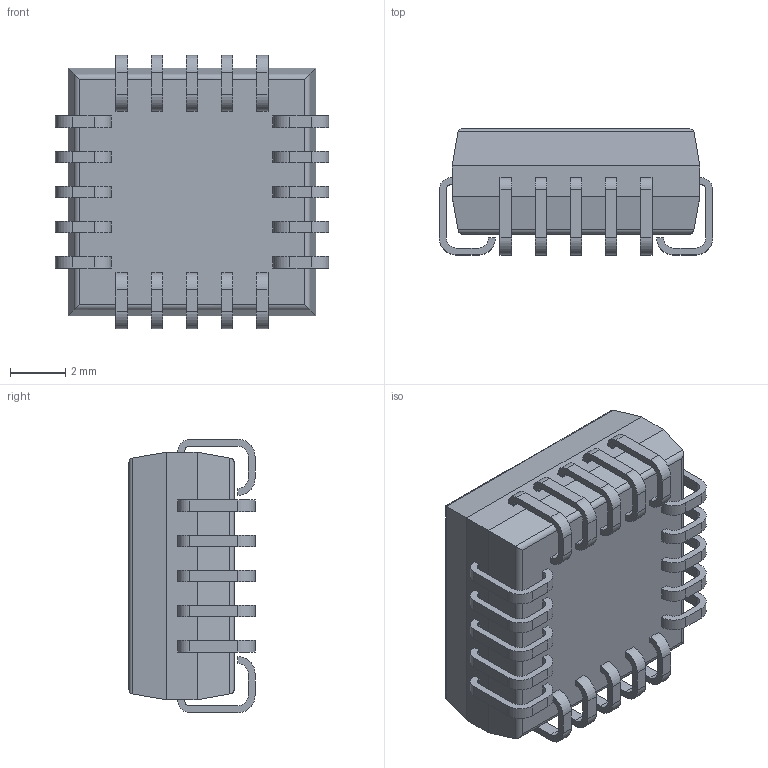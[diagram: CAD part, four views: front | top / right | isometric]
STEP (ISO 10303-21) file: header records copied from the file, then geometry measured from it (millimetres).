
FILE_DESCRIPTION (( 'STEP AP214' ), '1' );
FILE_NAME ( 'PLCC20P127_990X990X457L203X43.STEP', '2021-10-06T06:49:13', ( '' ), ( '' ), '', '©2017 PCB Libraries, Inc.', '' );
FILE_SCHEMA (( 'AUTOMOTIVE_DESIGN' ));
Length unit declared in the file: millimetre
Products named in the file (1): PLCC20P127_990X990X457L203X43
Bounding box: 9.9 x 4.57 x 9.9 mm (x, y, z)
Volume: 305.2 mm3; surface area: 405.9 mm2
Topology: 21 solids, 21 shells, 385 faces, 930 edges, 588 vertices
Faces by surface type: plane 255, cylinder 128, torus 2
Entity records: 13176 total; most frequent: CARTESIAN_POINT 2088, DIRECTION 2020, ORIENTED_EDGE 2020, EDGE_CURVE 1010, VECTOR 756, LINE 756, VERTEX_POINT 668, AXIS2_PLACEMENT_3D 632
